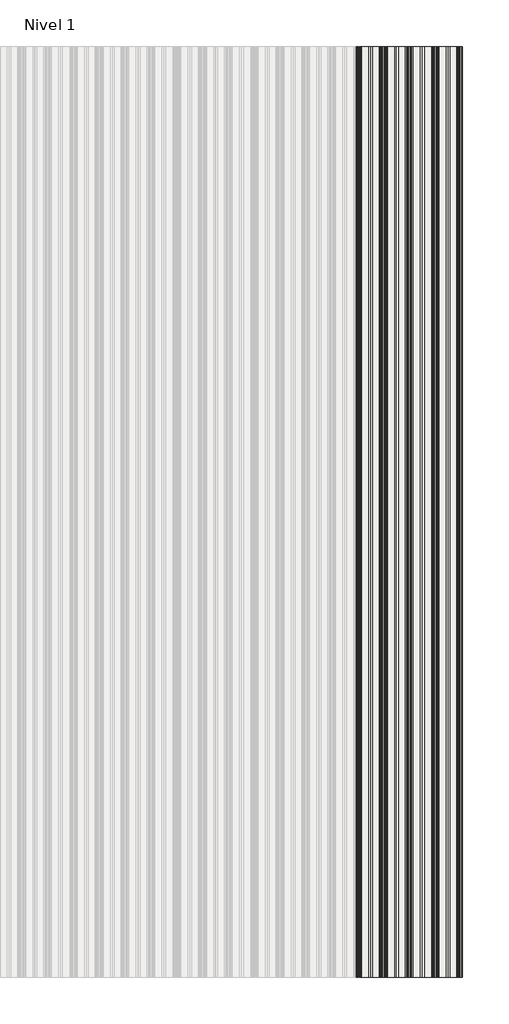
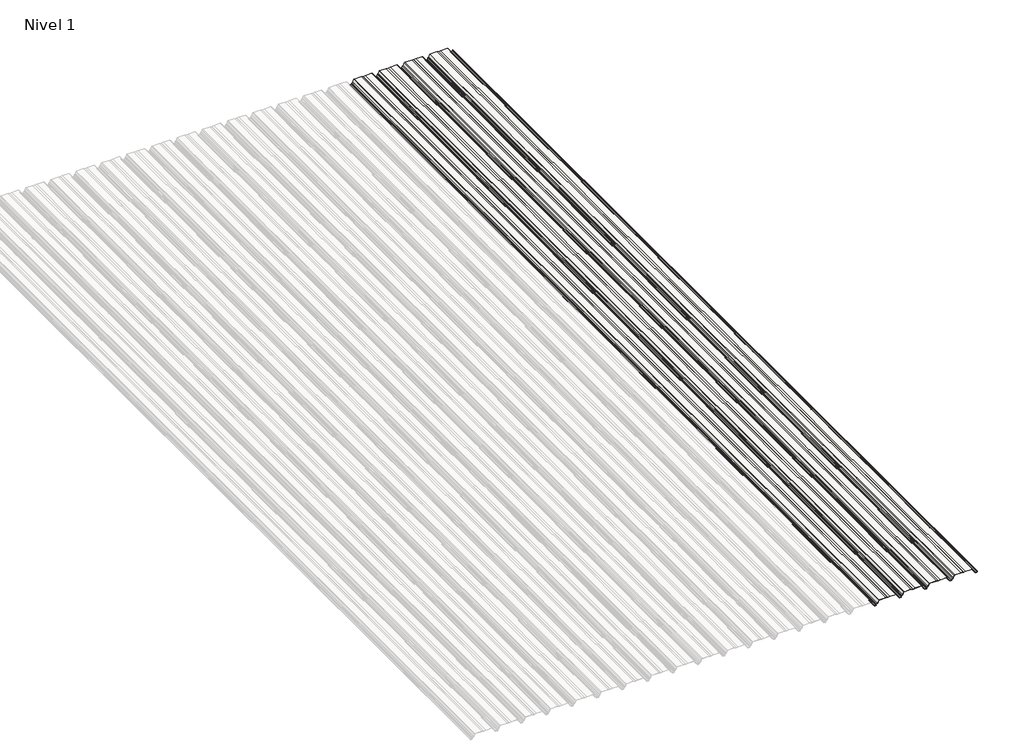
# One storey, part 2 of 4: 2 roofs.
"""IFC4 building model written with IfcOpenShell, lengths in millimetres."""

from ifc_helpers import new_model, si_unit, point, frame, frame_2d, origin, place, context, project, spatial, polyline, circle_curve, trimmed, segment, composite_curve, outline, extrude, element, save

model = new_model("IFC4")

# Units and contexts
model_context = context("Model", 3, world=origin())
ifc_project = project(units=[si_unit("LENGTHUNIT", "METRE", prefix="MILLI")], contexts=[model_context])

# Site, building, storey
site = spatial("IfcSite", under=ifc_project)
building = spatial("IfcBuilding", under=site)
storey = spatial("IfcBuildingStorey", under=building, Name="Nivel 1", Elevation=0.0)

# Roofs
placement = place(None, origin())
element("IfcRoof", 1, ObjectType="Panel_TZ-47 DECK : TZ-47 DECK_0.7mm", at=placement, inside=storey, context=model_context, shape_type="SweptSolid", body=[
    extrude(outline(composite_curve([segment(trimmed(circle_curve(frame_2d((44.0, -5199.9741819)), 2.5), [point((46.5, -5199.9741819))], [point((44.9953639, -5197.6808763))], True, "CARTESIAN"), True, "CONTINUOUS"), segment(polyline([(44.9953639, -5197.6808763), (19.8835868, -5186.781606)]), True, "CONTINUOUS"), segment(trimmed(circle_curve(frame_2d((21.0780235, -5184.0296393)), 3.0), [point((19.8835868, -5186.781606))], [point((18.397439, -5185.3766607))], False, "CARTESIAN"), True, "CONTINUOUS"), segment(polyline([(18.397439, -5185.3766607), (14.779315, -5178.1765618)]), True, "CONTINUOUS"), segment(trimmed(circle_curve(frame_2d((12.9922586, -5179.074576)), 2.0), [point((14.779315, -5178.1765618))], [point((13.6209063, -5177.1759444))], True, "CARTESIAN"), True, "CONTINUOUS"), segment(polyline([(13.6209063, -5177.1759444), (2.3998665, -5173.4605945)]), True, "CONTINUOUS"), segment(trimmed(circle_curve(frame_2d((3.5, -5170.1379891)), 3.5), [point((2.3998665, -5173.4605945))], [point((0.0, -5170.1379891))], False, "CARTESIAN"), True, "CONTINUOUS"), segment(polyline([(0.0, -5170.1379891), (0.0, -5155.193981)]), True, "CONTINUOUS"), segment(trimmed(circle_curve(frame_2d((3.5, -5155.193981)), 3.5), [point((0.0, -5155.193981))], [point((2.3998665, -5151.8713757))], False, "CARTESIAN"), True, "CONTINUOUS"), segment(polyline([(2.3998665, -5151.8713757), (7.5945265, -5150.1513943)]), True, "CONTINUOUS"), segment(trimmed(circle_curve(frame_2d((8.2231742, -5152.0500259)), 2.0), [point((7.5945265, -5150.1513943))], [point((9.1194865, -5150.2621153))], False, "CARTESIAN"), True, "CONTINUOUS"), segment(trimmed(circle_curve(frame_2d((9.5655913, -5149.359869)), 1.0065078), [point((9.1194865, -5150.2621153))], [point((9.8819608, -5150.3153628))], True, "CARTESIAN"), True, "CONTINUOUS"), segment(polyline([(9.8819608, -5150.3153628), (13.4343573, -5149.1391441), (13.6858163, -5149.8985968), (10.1334198, -5151.0748154)]), True, "CONTINUOUS"), segment(trimmed(circle_curve(frame_2d((9.5655913, -5149.359869)), 1.8065078), [point((10.1334198, -5151.0748154))], [point((8.7624057, -5150.9780047))], False, "CARTESIAN"), True, "CONTINUOUS"), segment(trimmed(circle_curve(frame_2d((8.2231742, -5152.0500259)), 1.2), [point((8.7624057, -5150.9780047))], [point((7.8459856, -5150.9108469))], True, "CARTESIAN"), True, "CONTINUOUS"), segment(polyline([(7.8459856, -5150.9108469), (2.6513256, -5152.6308283)]), True, "CONTINUOUS"), segment(trimmed(circle_curve(frame_2d((3.5, -5155.193981)), 2.7), [point((2.6513256, -5152.6308283))], [point((0.8, -5155.193981))], True, "CARTESIAN"), True, "CONTINUOUS"), segment(polyline([(0.8, -5155.193981), (0.8, -5170.1379891)]), True, "CONTINUOUS"), segment(trimmed(circle_curve(frame_2d((3.5, -5170.1379891)), 2.7), [point((0.8, -5170.1379891))], [point((2.6513256, -5172.7011418))], True, "CARTESIAN"), True, "CONTINUOUS"), segment(polyline([(2.6513256, -5172.7011418), (13.8723654, -5176.4164917)]), True, "CONTINUOUS"), segment(trimmed(circle_curve(frame_2d((12.9922586, -5179.074576)), 2.8), [point((13.8723654, -5176.4164917))], [point((15.4941375, -5177.8173561))], False, "CARTESIAN"), True, "CONTINUOUS"), segment(polyline([(15.4941375, -5177.8173561), (19.1122615, -5185.017455)]), True, "CONTINUOUS"), segment(trimmed(circle_curve(frame_2d((21.0780235, -5184.0296393)), 2.2), [point((19.1122615, -5185.017455))], [point((20.2021032, -5186.0477482))], True, "CARTESIAN"), True, "CONTINUOUS"), segment(polyline([(20.2021032, -5186.0477482), (45.3138804, -5196.9470185)]), True, "CONTINUOUS"), segment(trimmed(circle_curve(frame_2d((44.0, -5199.9741819)), 3.3), [point((45.3138804, -5196.9470185))], [point((47.3, -5199.9741819))], False, "CARTESIAN"), True, "CONTINUOUS"), segment(polyline([(47.3, -5199.9741819), (47.3, -5267.6956909), (43.3922323, -5287.2345296)]), True, "CONTINUOUS"), segment(trimmed(circle_curve(frame_2d((45.5495098, -5287.6659851)), 2.2), [point((43.3922323, -5287.2345296))], [point((43.3922323, -5288.0974406))], True, "CARTESIAN"), True, "CONTINUOUS"), segment(polyline([(43.3922323, -5288.0974406), (47.3, -5307.6362792), (47.3, -5375.3577882)]), True, "CONTINUOUS"), segment(trimmed(circle_curve(frame_2d((44.0, -5375.3577882)), 3.3), [point((47.3, -5375.3577882))], [point((45.3138804, -5378.3849516))], False, "CARTESIAN"), True, "CONTINUOUS"), segment(polyline([(45.3138804, -5378.3849516), (20.2021032, -5389.2842219)]), True, "CONTINUOUS"), segment(trimmed(circle_curve(frame_2d((21.0780235, -5391.3023308)), 2.2), [point((20.2021032, -5389.2842219))], [point((19.1122615, -5390.3145151))], True, "CARTESIAN"), True, "CONTINUOUS"), segment(polyline([(19.1122615, -5390.3145151), (15.4941375, -5397.5146141)]), True, "CONTINUOUS"), segment(trimmed(circle_curve(frame_2d((12.9922586, -5396.2573941)), 2.8), [point((15.4941375, -5397.5146141))], [point((13.8723654, -5398.9154784))], False, "CARTESIAN"), True, "CONTINUOUS"), segment(polyline([(13.8723654, -5398.9154784), (2.6513256, -5402.6308283)]), True, "CONTINUOUS"), segment(trimmed(circle_curve(frame_2d((3.5, -5405.193981)), 2.7), [point((2.6513256, -5402.6308283))], [point((0.8, -5405.193981))], True, "CARTESIAN"), True, "CONTINUOUS"), segment(polyline([(0.8, -5405.193981), (0.8, -5420.1379891)]), True, "CONTINUOUS"), segment(trimmed(circle_curve(frame_2d((3.5, -5420.1379891)), 2.7), [point((0.8, -5420.1379891))], [point((2.6513256, -5422.7011418))], True, "CARTESIAN"), True, "CONTINUOUS"), segment(polyline([(2.6513256, -5422.7011418), (13.8723654, -5426.4164917)]), True, "CONTINUOUS"), segment(trimmed(circle_curve(frame_2d((12.9922586, -5429.074576)), 2.8), [point((13.8723654, -5426.4164917))], [point((15.4941375, -5427.8173561))], False, "CARTESIAN"), True, "CONTINUOUS"), segment(polyline([(15.4941375, -5427.8173561), (19.1122615, -5435.017455)]), True, "CONTINUOUS"), segment(trimmed(circle_curve(frame_2d((21.0780235, -5434.0296393)), 2.2), [point((19.1122615, -5435.017455))], [point((20.2021032, -5436.0477482))], True, "CARTESIAN"), True, "CONTINUOUS"), segment(polyline([(20.2021032, -5436.0477482), (45.3138804, -5446.9470185)]), True, "CONTINUOUS"), segment(trimmed(circle_curve(frame_2d((44.0, -5449.9741819)), 3.3), [point((45.3138804, -5446.9470185))], [point((47.3, -5449.9741819))], False, "CARTESIAN"), True, "CONTINUOUS"), segment(polyline([(47.3, -5449.9741819), (47.3, -5517.6956909), (43.3922323, -5537.2345296)]), True, "CONTINUOUS"), segment(trimmed(circle_curve(frame_2d((45.5495098, -5537.6659851)), 2.2), [point((43.3922323, -5537.2345296))], [point((43.3922323, -5538.0974406))], True, "CARTESIAN"), True, "CONTINUOUS"), segment(polyline([(43.3922323, -5538.0974406), (47.3, -5557.6362792), (47.3, -5625.3577882)]), True, "CONTINUOUS"), segment(trimmed(circle_curve(frame_2d((44.0, -5625.3577882)), 3.3), [point((47.3, -5625.3577882))], [point((45.3138804, -5628.3849516))], False, "CARTESIAN"), True, "CONTINUOUS"), segment(polyline([(45.3138804, -5628.3849516), (20.2021032, -5639.2842219)]), True, "CONTINUOUS"), segment(trimmed(circle_curve(frame_2d((21.0780235, -5641.3023308)), 2.2), [point((20.2021032, -5639.2842219))], [point((19.1122615, -5640.3145151))], True, "CARTESIAN"), True, "CONTINUOUS"), segment(polyline([(19.1122615, -5640.3145151), (15.4941375, -5647.5146141)]), True, "CONTINUOUS"), segment(trimmed(circle_curve(frame_2d((12.9922586, -5646.2573941)), 2.8), [point((15.4941375, -5647.5146141))], [point((13.8723654, -5648.9154784))], False, "CARTESIAN"), True, "CONTINUOUS"), segment(polyline([(13.8723654, -5648.9154784), (2.6513256, -5652.6308283)]), True, "CONTINUOUS"), segment(trimmed(circle_curve(frame_2d((3.5, -5655.193981)), 2.7), [point((2.6513256, -5652.6308283))], [point((0.8, -5655.193981))], True, "CARTESIAN"), True, "CONTINUOUS"), segment(polyline([(0.8, -5655.193981), (0.8, -5670.1379891)]), True, "CONTINUOUS"), segment(trimmed(circle_curve(frame_2d((3.5, -5670.1379891)), 2.7), [point((0.8, -5670.1379891))], [point((2.6513256, -5672.7011418))], True, "CARTESIAN"), True, "CONTINUOUS"), segment(polyline([(2.6513256, -5672.7011418), (13.8723654, -5676.4164917)]), True, "CONTINUOUS"), segment(trimmed(circle_curve(frame_2d((12.9922586, -5679.074576)), 2.8), [point((13.8723654, -5676.4164917))], [point((15.4941375, -5677.8173561))], False, "CARTESIAN"), True, "CONTINUOUS"), segment(polyline([(15.4941375, -5677.8173561), (19.1122615, -5685.017455)]), True, "CONTINUOUS"), segment(trimmed(circle_curve(frame_2d((21.0780235, -5684.0296393)), 2.2), [point((19.1122615, -5685.017455))], [point((20.2021032, -5686.0477482))], True, "CARTESIAN"), True, "CONTINUOUS"), segment(polyline([(20.2021032, -5686.0477482), (45.3138804, -5696.9470185)]), True, "CONTINUOUS"), segment(trimmed(circle_curve(frame_2d((44.0, -5699.9741819)), 3.3), [point((45.3138804, -5696.9470185))], [point((47.3, -5699.9741819))], False, "CARTESIAN"), True, "CONTINUOUS"), segment(polyline([(47.3, -5699.9741819), (47.3, -5767.6956909), (43.3922323, -5787.2345296)]), True, "CONTINUOUS"), segment(trimmed(circle_curve(frame_2d((45.5495098, -5787.6659851)), 2.2), [point((43.3922323, -5787.2345296))], [point((43.3922323, -5788.0974406))], True, "CARTESIAN"), True, "CONTINUOUS"), segment(polyline([(43.3922323, -5788.0974406), (47.3, -5807.6362792), (47.3, -5875.3577882)]), True, "CONTINUOUS"), segment(trimmed(circle_curve(frame_2d((44.0, -5875.3577882)), 3.3), [point((47.3, -5875.3577882))], [point((45.3138804, -5878.3849516))], False, "CARTESIAN"), True, "CONTINUOUS"), segment(polyline([(45.3138804, -5878.3849516), (20.2021032, -5889.2842219)]), True, "CONTINUOUS"), segment(trimmed(circle_curve(frame_2d((21.0780235, -5891.3023308)), 2.2), [point((20.2021032, -5889.2842219))], [point((19.1122615, -5890.3145151))], True, "CARTESIAN"), True, "CONTINUOUS"), segment(polyline([(19.1122615, -5890.3145151), (15.4941375, -5897.5146141)]), True, "CONTINUOUS"), segment(trimmed(circle_curve(frame_2d((12.9922586, -5896.2573941)), 2.8), [point((15.4941375, -5897.5146141))], [point((13.8723654, -5898.9154784))], False, "CARTESIAN"), True, "CONTINUOUS"), segment(polyline([(13.8723654, -5898.9154784), (2.6513256, -5902.6308283)]), True, "CONTINUOUS"), segment(trimmed(circle_curve(frame_2d((3.5, -5905.193981)), 2.7), [point((2.6513256, -5902.6308283))], [point((0.8, -5905.193981))], True, "CARTESIAN"), True, "CONTINUOUS"), segment(polyline([(0.8, -5905.193981), (0.8, -5920.1379891)]), True, "CONTINUOUS"), segment(trimmed(circle_curve(frame_2d((3.5, -5920.1379891)), 2.7), [point((0.8, -5920.1379891))], [point((2.6513256, -5922.7011418))], True, "CARTESIAN"), True, "CONTINUOUS"), segment(polyline([(2.6513256, -5922.7011418), (13.8723654, -5926.4164917)]), True, "CONTINUOUS"), segment(trimmed(circle_curve(frame_2d((12.9922586, -5929.074576)), 2.8), [point((13.8723654, -5926.4164917))], [point((15.4941375, -5927.8173561))], False, "CARTESIAN"), True, "CONTINUOUS"), segment(polyline([(15.4941375, -5927.8173561), (19.1122615, -5935.017455)]), True, "CONTINUOUS"), segment(trimmed(circle_curve(frame_2d((21.0780235, -5934.0296393)), 2.2), [point((19.1122615, -5935.017455))], [point((20.2021032, -5936.0477482))], True, "CARTESIAN"), True, "CONTINUOUS"), segment(polyline([(20.2021032, -5936.0477482), (45.3138804, -5946.9470185)]), True, "CONTINUOUS"), segment(trimmed(circle_curve(frame_2d((44.0, -5949.9741819)), 3.3), [point((45.3138804, -5946.9470185))], [point((47.3, -5949.9741819))], False, "CARTESIAN"), True, "CONTINUOUS"), segment(polyline([(47.3, -5949.9741819), (47.3, -6017.6956909), (43.3922323, -6037.2345296)]), True, "CONTINUOUS"), segment(trimmed(circle_curve(frame_2d((45.5495098, -6037.6659851)), 2.2), [point((43.3922323, -6037.2345296))], [point((43.3922323, -6038.0974406))], True, "CARTESIAN"), True, "CONTINUOUS"), segment(polyline([(43.3922323, -6038.0974406), (47.3, -6057.6362792), (47.3, -6125.3577882)]), True, "CONTINUOUS"), segment(trimmed(circle_curve(frame_2d((44.0, -6125.3577882)), 3.3), [point((47.3, -6125.3577882))], [point((45.3138804, -6128.3849516))], False, "CARTESIAN"), True, "CONTINUOUS"), segment(polyline([(45.3138804, -6128.3849516), (20.2021032, -6139.2842219)]), True, "CONTINUOUS"), segment(trimmed(circle_curve(frame_2d((21.0780235, -6141.3023308)), 2.2), [point((20.2021032, -6139.2842219))], [point((19.1122615, -6140.3145151))], True, "CARTESIAN"), True, "CONTINUOUS"), segment(polyline([(19.1122615, -6140.3145151), (14.5899257, -6149.3140038)]), True, "CONTINUOUS"), segment(trimmed(circle_curve(frame_2d((12.0880468, -6148.0567838)), 2.8), [point((14.5899257, -6149.3140038))], [point((12.9681535, -6150.7148681))], False, "CARTESIAN"), True, "CONTINUOUS"), segment(polyline([(12.9681535, -6150.7148681), (4.1513256, -6153.6341698)]), True, "CONTINUOUS"), segment(trimmed(circle_curve(frame_2d((5.0, -6156.1973225)), 2.7), [point((4.1513256, -6153.6341698))], [point((2.3, -6156.1973225))], True, "CARTESIAN"), True, "CONTINUOUS"), segment(polyline([(2.3, -6156.1973225), (2.3, -6168.9091576)]), True, "CONTINUOUS"), segment(trimmed(circle_curve(frame_2d((4.0, -6168.9091576)), 1.7), [point((2.3, -6168.9091576))], [point((3.4656495, -6170.5229945))], True, "CARTESIAN"), True, "CONTINUOUS"), segment(polyline([(3.4656495, -6170.5229945), (5.3642811, -6171.1516422), (5.112822, -6171.9110948), (3.2141904, -6171.2824471)]), True, "CONTINUOUS"), segment(trimmed(circle_curve(frame_2d((4.0, -6168.9091576)), 2.5), [point((3.2141904, -6171.2824471))], [point((1.5, -6168.9091576))], False, "CARTESIAN"), True, "CONTINUOUS"), segment(polyline([(1.5, -6168.9091576), (1.5, -6156.1973225)]), True, "CONTINUOUS"), segment(trimmed(circle_curve(frame_2d((5.0, -6156.1973225)), 3.5), [point((1.5, -6156.1973225))], [point((3.8998665, -6152.8747171))], False, "CARTESIAN"), True, "CONTINUOUS"), segment(polyline([(3.8998665, -6152.8747171), (12.7166945, -6149.9554154)]), True, "CONTINUOUS"), segment(trimmed(circle_curve(frame_2d((12.0880468, -6148.0567838)), 2.0), [point((12.7166945, -6149.9554154))], [point((13.8751031, -6148.9547981))], True, "CARTESIAN"), True, "CONTINUOUS"), segment(polyline([(13.8751031, -6148.9547981), (18.397439, -6139.9553094)]), True, "CONTINUOUS"), segment(trimmed(circle_curve(frame_2d((21.0780235, -6141.3023308)), 3.0), [point((18.397439, -6139.9553094))], [point((19.8835868, -6138.5503641))], False, "CARTESIAN"), True, "CONTINUOUS"), segment(polyline([(19.8835868, -6138.5503641), (44.9953639, -6127.6510938)]), True, "CONTINUOUS"), segment(trimmed(circle_curve(frame_2d((44.0, -6125.3577882)), 2.5), [point((44.9953639, -6127.6510938))], [point((46.5, -6125.3577882))], True, "CARTESIAN"), True, "CONTINUOUS"), segment(polyline([(46.5, -6125.3577882), (46.5, -6057.7154948), (42.6077677, -6038.2543335)]), True, "CONTINUOUS"), segment(trimmed(circle_curve(frame_2d((45.5495098, -6037.6659851)), 3.0), [point((42.6077677, -6038.2543335))], [point((42.6077677, -6037.0776367))], False, "CARTESIAN"), True, "CONTINUOUS"), segment(polyline([(42.6077677, -6037.0776367), (46.5, -6017.6164753), (46.5, -5949.9741819)]), True, "CONTINUOUS"), segment(trimmed(circle_curve(frame_2d((44.0, -5949.9741819)), 2.5), [point((46.5, -5949.9741819))], [point((44.9953639, -5947.6808763))], True, "CARTESIAN"), True, "CONTINUOUS"), segment(polyline([(44.9953639, -5947.6808763), (19.8835868, -5936.781606)]), True, "CONTINUOUS"), segment(trimmed(circle_curve(frame_2d((21.0780235, -5934.0296393)), 3.0), [point((19.8835868, -5936.781606))], [point((18.397439, -5935.3766607))], False, "CARTESIAN"), True, "CONTINUOUS"), segment(polyline([(18.397439, -5935.3766607), (14.779315, -5928.1765618)]), True, "CONTINUOUS"), segment(trimmed(circle_curve(frame_2d((12.9922586, -5929.074576)), 2.0), [point((14.779315, -5928.1765618))], [point((13.6209063, -5927.1759444))], True, "CARTESIAN"), True, "CONTINUOUS"), segment(polyline([(13.6209063, -5927.1759444), (2.3998665, -5923.4605945)]), True, "CONTINUOUS"), segment(trimmed(circle_curve(frame_2d((3.5, -5920.1379891)), 3.5), [point((2.3998665, -5923.4605945))], [point((0.0, -5920.1379891))], False, "CARTESIAN"), True, "CONTINUOUS"), segment(polyline([(0.0, -5920.1379891), (0.0, -5905.193981)]), True, "CONTINUOUS"), segment(trimmed(circle_curve(frame_2d((3.5, -5905.193981)), 3.5), [point((0.0, -5905.193981))], [point((2.3998665, -5901.8713757))], False, "CARTESIAN"), True, "CONTINUOUS"), segment(polyline([(2.3998665, -5901.8713757), (13.6209063, -5898.1560258)]), True, "CONTINUOUS"), segment(trimmed(circle_curve(frame_2d((12.9922586, -5896.2573941)), 2.0), [point((13.6209063, -5898.1560258))], [point((14.779315, -5897.1554084))], True, "CARTESIAN"), True, "CONTINUOUS"), segment(polyline([(14.779315, -5897.1554084), (18.397439, -5889.9553094)]), True, "CONTINUOUS"), segment(trimmed(circle_curve(frame_2d((21.0780235, -5891.3023308)), 3.0), [point((18.397439, -5889.9553094))], [point((19.8835868, -5888.5503641))], False, "CARTESIAN"), True, "CONTINUOUS"), segment(polyline([(19.8835868, -5888.5503641), (44.9953639, -5877.6510938)]), True, "CONTINUOUS"), segment(trimmed(circle_curve(frame_2d((44.0, -5875.3577882)), 2.5), [point((44.9953639, -5877.6510938))], [point((46.5, -5875.3577882))], True, "CARTESIAN"), True, "CONTINUOUS"), segment(polyline([(46.5, -5875.3577882), (46.5, -5807.7154948), (42.6077677, -5788.2543335)]), True, "CONTINUOUS"), segment(trimmed(circle_curve(frame_2d((45.5495098, -5787.6659851)), 3.0), [point((42.6077677, -5788.2543335))], [point((42.6077677, -5787.0776367))], False, "CARTESIAN"), True, "CONTINUOUS"), segment(polyline([(42.6077677, -5787.0776367), (46.5, -5767.6164753), (46.5, -5699.9741819)]), True, "CONTINUOUS"), segment(trimmed(circle_curve(frame_2d((44.0, -5699.9741819)), 2.5), [point((46.5, -5699.9741819))], [point((44.9953639, -5697.6808763))], True, "CARTESIAN"), True, "CONTINUOUS"), segment(polyline([(44.9953639, -5697.6808763), (19.8835868, -5686.781606)]), True, "CONTINUOUS"), segment(trimmed(circle_curve(frame_2d((21.0780235, -5684.0296393)), 3.0), [point((19.8835868, -5686.781606))], [point((18.397439, -5685.3766607))], False, "CARTESIAN"), True, "CONTINUOUS"), segment(polyline([(18.397439, -5685.3766607), (14.779315, -5678.1765618)]), True, "CONTINUOUS"), segment(trimmed(circle_curve(frame_2d((12.9922586, -5679.074576)), 2.0), [point((14.779315, -5678.1765618))], [point((13.6209063, -5677.1759444))], True, "CARTESIAN"), True, "CONTINUOUS"), segment(polyline([(13.6209063, -5677.1759444), (2.3998665, -5673.4605945)]), True, "CONTINUOUS"), segment(trimmed(circle_curve(frame_2d((3.5, -5670.1379891)), 3.5), [point((2.3998665, -5673.4605945))], [point((0.0, -5670.1379891))], False, "CARTESIAN"), True, "CONTINUOUS"), segment(polyline([(0.0, -5670.1379891), (0.0, -5655.193981)]), True, "CONTINUOUS"), segment(trimmed(circle_curve(frame_2d((3.5, -5655.193981)), 3.5), [point((0.0, -5655.193981))], [point((2.3998665, -5651.8713757))], False, "CARTESIAN"), True, "CONTINUOUS"), segment(polyline([(2.3998665, -5651.8713757), (13.6209063, -5648.1560258)]), True, "CONTINUOUS"), segment(trimmed(circle_curve(frame_2d((12.9922586, -5646.2573941)), 2.0), [point((13.6209063, -5648.1560258))], [point((14.779315, -5647.1554084))], True, "CARTESIAN"), True, "CONTINUOUS"), segment(polyline([(14.779315, -5647.1554084), (18.397439, -5639.9553094)]), True, "CONTINUOUS"), segment(trimmed(circle_curve(frame_2d((21.0780235, -5641.3023308)), 3.0), [point((18.397439, -5639.9553094))], [point((19.8835868, -5638.5503641))], False, "CARTESIAN"), True, "CONTINUOUS"), segment(polyline([(19.8835868, -5638.5503641), (44.9953639, -5627.6510938)]), True, "CONTINUOUS"), segment(trimmed(circle_curve(frame_2d((44.0, -5625.3577882)), 2.5), [point((44.9953639, -5627.6510938))], [point((46.5, -5625.3577882))], True, "CARTESIAN"), True, "CONTINUOUS"), segment(polyline([(46.5, -5625.3577882), (46.5, -5557.7154948), (42.6077677, -5538.2543335)]), True, "CONTINUOUS"), segment(trimmed(circle_curve(frame_2d((45.5495098, -5537.6659851)), 3.0), [point((42.6077677, -5538.2543335))], [point((42.6077677, -5537.0776367))], False, "CARTESIAN"), True, "CONTINUOUS"), segment(polyline([(42.6077677, -5537.0776367), (46.5, -5517.6164753), (46.5, -5449.9741819)]), True, "CONTINUOUS"), segment(trimmed(circle_curve(frame_2d((44.0, -5449.9741819)), 2.5), [point((46.5, -5449.9741819))], [point((44.9953639, -5447.6808763))], True, "CARTESIAN"), True, "CONTINUOUS"), segment(polyline([(44.9953639, -5447.6808763), (19.8835868, -5436.781606)]), True, "CONTINUOUS"), segment(trimmed(circle_curve(frame_2d((21.0780235, -5434.0296393)), 3.0), [point((19.8835868, -5436.781606))], [point((18.397439, -5435.3766607))], False, "CARTESIAN"), True, "CONTINUOUS"), segment(polyline([(18.397439, -5435.3766607), (14.779315, -5428.1765618)]), True, "CONTINUOUS"), segment(trimmed(circle_curve(frame_2d((12.9922586, -5429.074576)), 2.0), [point((14.779315, -5428.1765618))], [point((13.6209063, -5427.1759444))], True, "CARTESIAN"), True, "CONTINUOUS"), segment(polyline([(13.6209063, -5427.1759444), (2.3998665, -5423.4605945)]), True, "CONTINUOUS"), segment(trimmed(circle_curve(frame_2d((3.5, -5420.1379891)), 3.5), [point((2.3998665, -5423.4605945))], [point((0.0, -5420.1379891))], False, "CARTESIAN"), True, "CONTINUOUS"), segment(polyline([(0.0, -5420.1379891), (0.0, -5405.193981)]), True, "CONTINUOUS"), segment(trimmed(circle_curve(frame_2d((3.5, -5405.193981)), 3.5), [point((0.0, -5405.193981))], [point((2.3998665, -5401.8713757))], False, "CARTESIAN"), True, "CONTINUOUS"), segment(polyline([(2.3998665, -5401.8713757), (13.6209063, -5398.1560258)]), True, "CONTINUOUS"), segment(trimmed(circle_curve(frame_2d((12.9922586, -5396.2573941)), 2.0), [point((13.6209063, -5398.1560258))], [point((14.779315, -5397.1554084))], True, "CARTESIAN"), True, "CONTINUOUS"), segment(polyline([(14.779315, -5397.1554084), (18.397439, -5389.9553094)]), True, "CONTINUOUS"), segment(trimmed(circle_curve(frame_2d((21.0780235, -5391.3023308)), 3.0), [point((18.397439, -5389.9553094))], [point((19.8835868, -5388.5503641))], False, "CARTESIAN"), True, "CONTINUOUS"), segment(polyline([(19.8835868, -5388.5503641), (44.9953639, -5377.6510938)]), True, "CONTINUOUS"), segment(trimmed(circle_curve(frame_2d((44.0, -5375.3577882)), 2.5), [point((44.9953639, -5377.6510938))], [point((46.5, -5375.3577882))], True, "CARTESIAN"), True, "CONTINUOUS"), segment(polyline([(46.5, -5375.3577882), (46.5, -5307.7154948), (42.6077677, -5288.2543335)]), True, "CONTINUOUS"), segment(trimmed(circle_curve(frame_2d((45.5495098, -5287.6659851)), 3.0), [point((42.6077677, -5288.2543335))], [point((42.6077677, -5287.0776367))], False, "CARTESIAN"), True, "CONTINUOUS"), segment(polyline([(42.6077677, -5287.0776367), (46.5, -5267.6164753), (46.5, -5199.9741819)]), True, "CONTINUOUS")], self_intersect=False)), frame((0.0, -3212.7855956, 0.0), z_axis=(0.0, 1.0, 0.0), x_axis=(0.0, 0.0, 1.0)), (0.0, 0.0, 1.0), 9000.0),
])
element("IfcRoof", 2, ObjectType="Panel_TZ-47 DECK : TZ-47 DECK_0.8mm", at=placement, inside=storey, context=model_context, shape_type="SweptSolid", body=[
    extrude(outline(composite_curve([segment(trimmed(circle_curve(frame_2d((44.0, -4199.974182)), 2.5), [point((46.5, -4199.974182))], [point((44.9953639, -4197.6808764))], True, "CARTESIAN"), True, "CONTINUOUS"), segment(polyline([(44.9953639, -4197.6808764), (19.8835868, -4186.7816062)]), True, "CONTINUOUS"), segment(trimmed(circle_curve(frame_2d((21.0780235, -4184.0296395)), 3.0), [point((19.8835868, -4186.7816062))], [point((18.397439, -4185.3766608))], False, "CARTESIAN"), True, "CONTINUOUS"), segment(polyline([(18.397439, -4185.3766608), (14.779315, -4178.1765619)]), True, "CONTINUOUS"), segment(trimmed(circle_curve(frame_2d((12.9922586, -4179.0745762)), 2.0), [point((14.779315, -4178.1765619))], [point((13.6209063, -4177.1759445))], True, "CARTESIAN"), True, "CONTINUOUS"), segment(polyline([(13.6209063, -4177.1759445), (2.3998665, -4173.4605946)]), True, "CONTINUOUS"), segment(trimmed(circle_curve(frame_2d((3.5, -4170.1379893)), 3.5), [point((2.3998665, -4173.4605946))], [point((0.0, -4170.1379893))], False, "CARTESIAN"), True, "CONTINUOUS"), segment(polyline([(0.0, -4170.1379893), (0.0, -4155.1939812)]), True, "CONTINUOUS"), segment(trimmed(circle_curve(frame_2d((3.5, -4155.1939812)), 3.5), [point((0.0, -4155.1939812))], [point((2.3998665, -4151.8713758))], False, "CARTESIAN"), True, "CONTINUOUS"), segment(polyline([(2.3998665, -4151.8713758), (7.5945265, -4150.1513944)]), True, "CONTINUOUS"), segment(trimmed(circle_curve(frame_2d((8.2231742, -4152.0500261)), 2.0), [point((7.5945265, -4150.1513944))], [point((9.1194865, -4150.2621155))], False, "CARTESIAN"), True, "CONTINUOUS"), segment(trimmed(circle_curve(frame_2d((9.5655913, -4149.3598691)), 1.0065078), [point((9.1194865, -4150.2621155))], [point((9.8819608, -4150.3153629))], True, "CARTESIAN"), True, "CONTINUOUS"), segment(polyline([(9.8819608, -4150.3153629), (13.4343573, -4149.1391443), (13.6858163, -4149.8985969), (10.1334198, -4151.0748156)]), True, "CONTINUOUS"), segment(trimmed(circle_curve(frame_2d((9.5655913, -4149.3598691)), 1.8065078), [point((10.1334198, -4151.0748156))], [point((8.7624057, -4150.9780049))], False, "CARTESIAN"), True, "CONTINUOUS"), segment(trimmed(circle_curve(frame_2d((8.2231742, -4152.0500261)), 1.2), [point((8.7624057, -4150.9780049))], [point((7.8459856, -4150.9108471))], True, "CARTESIAN"), True, "CONTINUOUS"), segment(polyline([(7.8459856, -4150.9108471), (2.6513256, -4152.6308285)]), True, "CONTINUOUS"), segment(trimmed(circle_curve(frame_2d((3.5, -4155.1939812)), 2.7), [point((2.6513256, -4152.6308285))], [point((0.8, -4155.1939812))], True, "CARTESIAN"), True, "CONTINUOUS"), segment(polyline([(0.8, -4155.1939812), (0.8, -4170.1379893)]), True, "CONTINUOUS"), segment(trimmed(circle_curve(frame_2d((3.5, -4170.1379893)), 2.7), [point((0.8, -4170.1379893))], [point((2.6513256, -4172.701142))], True, "CARTESIAN"), True, "CONTINUOUS"), segment(polyline([(2.6513256, -4172.701142), (13.8723654, -4176.4164919)]), True, "CONTINUOUS"), segment(trimmed(circle_curve(frame_2d((12.9922586, -4179.0745762)), 2.8), [point((13.8723654, -4176.4164919))], [point((15.4941375, -4177.8173562))], False, "CARTESIAN"), True, "CONTINUOUS"), segment(polyline([(15.4941375, -4177.8173562), (19.1122615, -4185.0174551)]), True, "CONTINUOUS"), segment(trimmed(circle_curve(frame_2d((21.0780235, -4184.0296395)), 2.2), [point((19.1122615, -4185.0174551))], [point((20.2021032, -4186.0477484))], True, "CARTESIAN"), True, "CONTINUOUS"), segment(polyline([(20.2021032, -4186.0477484), (45.3138804, -4196.9470186)]), True, "CONTINUOUS"), segment(trimmed(circle_curve(frame_2d((44.0, -4199.974182)), 3.3), [point((45.3138804, -4196.9470186))], [point((47.3, -4199.974182))], False, "CARTESIAN"), True, "CONTINUOUS"), segment(polyline([(47.3, -4199.974182), (47.3, -4267.6956911), (43.3922323, -4287.2345297)]), True, "CONTINUOUS"), segment(trimmed(circle_curve(frame_2d((45.5495098, -4287.6659852)), 2.2), [point((43.3922323, -4287.2345297))], [point((43.3922323, -4288.0974407))], True, "CARTESIAN"), True, "CONTINUOUS"), segment(polyline([(43.3922323, -4288.0974407), (47.3, -4307.6362794), (47.3, -4375.3577884)]), True, "CONTINUOUS"), segment(trimmed(circle_curve(frame_2d((44.0, -4375.3577884)), 3.3), [point((47.3, -4375.3577884))], [point((45.3138804, -4378.3849518))], False, "CARTESIAN"), True, "CONTINUOUS"), segment(polyline([(45.3138804, -4378.3849518), (20.2021032, -4389.284222)]), True, "CONTINUOUS"), segment(trimmed(circle_curve(frame_2d((21.0780235, -4391.302331)), 2.2), [point((20.2021032, -4389.284222))], [point((19.1122615, -4390.3145153))], True, "CARTESIAN"), True, "CONTINUOUS"), segment(polyline([(19.1122615, -4390.3145153), (15.4941375, -4397.5146142)]), True, "CONTINUOUS"), segment(trimmed(circle_curve(frame_2d((12.9922586, -4396.2573943)), 2.8), [point((15.4941375, -4397.5146142))], [point((13.8723654, -4398.9154786))], False, "CARTESIAN"), True, "CONTINUOUS"), segment(polyline([(13.8723654, -4398.9154786), (2.6513256, -4402.6308285)]), True, "CONTINUOUS"), segment(trimmed(circle_curve(frame_2d((3.5, -4405.1939812)), 2.7), [point((2.6513256, -4402.6308285))], [point((0.8, -4405.1939812))], True, "CARTESIAN"), True, "CONTINUOUS"), segment(polyline([(0.8, -4405.1939812), (0.8, -4420.1379893)]), True, "CONTINUOUS"), segment(trimmed(circle_curve(frame_2d((3.5, -4420.1379893)), 2.7), [point((0.8, -4420.1379893))], [point((2.6513256, -4422.701142))], True, "CARTESIAN"), True, "CONTINUOUS"), segment(polyline([(2.6513256, -4422.701142), (13.8723654, -4426.4164919)]), True, "CONTINUOUS"), segment(trimmed(circle_curve(frame_2d((12.9922586, -4429.0745762)), 2.8), [point((13.8723654, -4426.4164919))], [point((15.4941375, -4427.8173562))], False, "CARTESIAN"), True, "CONTINUOUS"), segment(polyline([(15.4941375, -4427.8173562), (19.1122615, -4435.0174551)]), True, "CONTINUOUS"), segment(trimmed(circle_curve(frame_2d((21.0780235, -4434.0296395)), 2.2), [point((19.1122615, -4435.0174551))], [point((20.2021032, -4436.0477484))], True, "CARTESIAN"), True, "CONTINUOUS"), segment(polyline([(20.2021032, -4436.0477484), (45.3138804, -4446.9470186)]), True, "CONTINUOUS"), segment(trimmed(circle_curve(frame_2d((44.0, -4449.974182)), 3.3), [point((45.3138804, -4446.9470186))], [point((47.3, -4449.974182))], False, "CARTESIAN"), True, "CONTINUOUS"), segment(polyline([(47.3, -4449.974182), (47.3, -4517.6956911), (43.3922323, -4537.2345297)]), True, "CONTINUOUS"), segment(trimmed(circle_curve(frame_2d((45.5495098, -4537.6659852)), 2.2), [point((43.3922323, -4537.2345297))], [point((43.3922323, -4538.0974407))], True, "CARTESIAN"), True, "CONTINUOUS"), segment(polyline([(43.3922323, -4538.0974407), (47.3, -4557.6362794), (47.3, -4625.3577884)]), True, "CONTINUOUS"), segment(trimmed(circle_curve(frame_2d((44.0, -4625.3577884)), 3.3), [point((47.3, -4625.3577884))], [point((45.3138804, -4628.3849518))], False, "CARTESIAN"), True, "CONTINUOUS"), segment(polyline([(45.3138804, -4628.3849518), (20.2021032, -4639.284222)]), True, "CONTINUOUS"), segment(trimmed(circle_curve(frame_2d((21.0780235, -4641.302331)), 2.2), [point((20.2021032, -4639.284222))], [point((19.1122615, -4640.3145153))], True, "CARTESIAN"), True, "CONTINUOUS"), segment(polyline([(19.1122615, -4640.3145153), (15.4941375, -4647.5146142)]), True, "CONTINUOUS"), segment(trimmed(circle_curve(frame_2d((12.9922586, -4646.2573943)), 2.8), [point((15.4941375, -4647.5146142))], [point((13.8723654, -4648.9154786))], False, "CARTESIAN"), True, "CONTINUOUS"), segment(polyline([(13.8723654, -4648.9154786), (2.6513256, -4652.6308285)]), True, "CONTINUOUS"), segment(trimmed(circle_curve(frame_2d((3.5, -4655.1939812)), 2.7), [point((2.6513256, -4652.6308285))], [point((0.8, -4655.1939812))], True, "CARTESIAN"), True, "CONTINUOUS"), segment(polyline([(0.8, -4655.1939812), (0.8, -4670.1379893)]), True, "CONTINUOUS"), segment(trimmed(circle_curve(frame_2d((3.5, -4670.1379893)), 2.7), [point((0.8, -4670.1379893))], [point((2.6513256, -4672.701142))], True, "CARTESIAN"), True, "CONTINUOUS"), segment(polyline([(2.6513256, -4672.701142), (13.8723654, -4676.4164919)]), True, "CONTINUOUS"), segment(trimmed(circle_curve(frame_2d((12.9922586, -4679.0745762)), 2.8), [point((13.8723654, -4676.4164919))], [point((15.4941375, -4677.8173562))], False, "CARTESIAN"), True, "CONTINUOUS"), segment(polyline([(15.4941375, -4677.8173562), (19.1122615, -4685.0174551)]), True, "CONTINUOUS"), segment(trimmed(circle_curve(frame_2d((21.0780235, -4684.0296395)), 2.2), [point((19.1122615, -4685.0174551))], [point((20.2021032, -4686.0477484))], True, "CARTESIAN"), True, "CONTINUOUS"), segment(polyline([(20.2021032, -4686.0477484), (45.3138804, -4696.9470186)]), True, "CONTINUOUS"), segment(trimmed(circle_curve(frame_2d((44.0, -4699.974182)), 3.3), [point((45.3138804, -4696.9470186))], [point((47.3, -4699.974182))], False, "CARTESIAN"), True, "CONTINUOUS"), segment(polyline([(47.3, -4699.974182), (47.3, -4767.6956911), (43.3922323, -4787.2345297)]), True, "CONTINUOUS"), segment(trimmed(circle_curve(frame_2d((45.5495098, -4787.6659852)), 2.2), [point((43.3922323, -4787.2345297))], [point((43.3922323, -4788.0974407))], True, "CARTESIAN"), True, "CONTINUOUS"), segment(polyline([(43.3922323, -4788.0974407), (47.3, -4807.6362794), (47.3, -4875.3577884)]), True, "CONTINUOUS"), segment(trimmed(circle_curve(frame_2d((44.0, -4875.3577884)), 3.3), [point((47.3, -4875.3577884))], [point((45.3138804, -4878.3849518))], False, "CARTESIAN"), True, "CONTINUOUS"), segment(polyline([(45.3138804, -4878.3849518), (20.2021032, -4889.284222)]), True, "CONTINUOUS"), segment(trimmed(circle_curve(frame_2d((21.0780235, -4891.302331)), 2.2), [point((20.2021032, -4889.284222))], [point((19.1122615, -4890.3145153))], True, "CARTESIAN"), True, "CONTINUOUS"), segment(polyline([(19.1122615, -4890.3145153), (15.4941375, -4897.5146142)]), True, "CONTINUOUS"), segment(trimmed(circle_curve(frame_2d((12.9922586, -4896.2573943)), 2.8), [point((15.4941375, -4897.5146142))], [point((13.8723654, -4898.9154786))], False, "CARTESIAN"), True, "CONTINUOUS"), segment(polyline([(13.8723654, -4898.9154786), (2.6513256, -4902.6308285)]), True, "CONTINUOUS"), segment(trimmed(circle_curve(frame_2d((3.5, -4905.1939812)), 2.7), [point((2.6513256, -4902.6308285))], [point((0.8, -4905.1939812))], True, "CARTESIAN"), True, "CONTINUOUS"), segment(polyline([(0.8, -4905.1939812), (0.8, -4920.1379893)]), True, "CONTINUOUS"), segment(trimmed(circle_curve(frame_2d((3.5, -4920.1379893)), 2.7), [point((0.8, -4920.1379893))], [point((2.6513256, -4922.701142))], True, "CARTESIAN"), True, "CONTINUOUS"), segment(polyline([(2.6513256, -4922.701142), (13.8723654, -4926.4164919)]), True, "CONTINUOUS"), segment(trimmed(circle_curve(frame_2d((12.9922586, -4929.0745762)), 2.8), [point((13.8723654, -4926.4164919))], [point((15.4941375, -4927.8173562))], False, "CARTESIAN"), True, "CONTINUOUS"), segment(polyline([(15.4941375, -4927.8173562), (19.1122615, -4935.0174551)]), True, "CONTINUOUS"), segment(trimmed(circle_curve(frame_2d((21.0780235, -4934.0296395)), 2.2), [point((19.1122615, -4935.0174551))], [point((20.2021032, -4936.0477484))], True, "CARTESIAN"), True, "CONTINUOUS"), segment(polyline([(20.2021032, -4936.0477484), (45.3138804, -4946.9470186)]), True, "CONTINUOUS"), segment(trimmed(circle_curve(frame_2d((44.0, -4949.974182)), 3.3), [point((45.3138804, -4946.9470186))], [point((47.3, -4949.974182))], False, "CARTESIAN"), True, "CONTINUOUS"), segment(polyline([(47.3, -4949.974182), (47.3, -5017.6956911), (43.3922323, -5037.2345297)]), True, "CONTINUOUS"), segment(trimmed(circle_curve(frame_2d((45.5495098, -5037.6659852)), 2.2), [point((43.3922323, -5037.2345297))], [point((43.3922323, -5038.0974407))], True, "CARTESIAN"), True, "CONTINUOUS"), segment(polyline([(43.3922323, -5038.0974407), (47.3, -5057.6362794), (47.3, -5125.3577884)]), True, "CONTINUOUS"), segment(trimmed(circle_curve(frame_2d((44.0, -5125.3577884)), 3.3), [point((47.3, -5125.3577884))], [point((45.3138804, -5128.3849518))], False, "CARTESIAN"), True, "CONTINUOUS"), segment(polyline([(45.3138804, -5128.3849518), (20.2021032, -5139.284222)]), True, "CONTINUOUS"), segment(trimmed(circle_curve(frame_2d((21.0780235, -5141.302331)), 2.2), [point((20.2021032, -5139.284222))], [point((19.1122615, -5140.3145153))], True, "CARTESIAN"), True, "CONTINUOUS"), segment(polyline([(19.1122615, -5140.3145153), (14.5899257, -5149.3140039)]), True, "CONTINUOUS"), segment(trimmed(circle_curve(frame_2d((12.0880468, -5148.056784)), 2.8), [point((14.5899257, -5149.3140039))], [point((12.9681535, -5150.7148682))], False, "CARTESIAN"), True, "CONTINUOUS"), segment(polyline([(12.9681535, -5150.7148682), (4.1513256, -5153.63417)]), True, "CONTINUOUS"), segment(trimmed(circle_curve(frame_2d((5.0, -5156.1973227)), 2.7), [point((4.1513256, -5153.63417))], [point((2.3, -5156.1973227))], True, "CARTESIAN"), True, "CONTINUOUS"), segment(polyline([(2.3, -5156.1973227), (2.3, -5168.9091577)]), True, "CONTINUOUS"), segment(trimmed(circle_curve(frame_2d((4.0, -5168.9091577)), 1.7), [point((2.3, -5168.9091577))], [point((3.4656495, -5170.5229946))], True, "CARTESIAN"), True, "CONTINUOUS"), segment(polyline([(3.4656495, -5170.5229946), (5.3642811, -5171.1516423), (5.112822, -5171.911095), (3.2141904, -5171.2824473)]), True, "CONTINUOUS"), segment(trimmed(circle_curve(frame_2d((4.0, -5168.9091577)), 2.5), [point((3.2141904, -5171.2824473))], [point((1.5, -5168.9091577))], False, "CARTESIAN"), True, "CONTINUOUS"), segment(polyline([(1.5, -5168.9091577), (1.5, -5156.1973227)]), True, "CONTINUOUS"), segment(trimmed(circle_curve(frame_2d((5.0, -5156.1973227)), 3.5), [point((1.5, -5156.1973227))], [point((3.8998665, -5152.8747173))], False, "CARTESIAN"), True, "CONTINUOUS"), segment(polyline([(3.8998665, -5152.8747173), (12.7166945, -5149.9554156)]), True, "CONTINUOUS"), segment(trimmed(circle_curve(frame_2d((12.0880468, -5148.056784)), 2.0), [point((12.7166945, -5149.9554156))], [point((13.8751031, -5148.9547982))], True, "CARTESIAN"), True, "CONTINUOUS"), segment(polyline([(13.8751031, -5148.9547982), (18.397439, -5139.9553096)]), True, "CONTINUOUS"), segment(trimmed(circle_curve(frame_2d((21.0780235, -5141.302331)), 3.0), [point((18.397439, -5139.9553096))], [point((19.8835868, -5138.5503642))], False, "CARTESIAN"), True, "CONTINUOUS"), segment(polyline([(19.8835868, -5138.5503642), (44.9953639, -5127.651094)]), True, "CONTINUOUS"), segment(trimmed(circle_curve(frame_2d((44.0, -5125.3577884)), 2.5), [point((44.9953639, -5127.651094))], [point((46.5, -5125.3577884))], True, "CARTESIAN"), True, "CONTINUOUS"), segment(polyline([(46.5, -5125.3577884), (46.5, -5057.715495), (42.6077677, -5038.2543336)]), True, "CONTINUOUS"), segment(trimmed(circle_curve(frame_2d((45.5495098, -5037.6659852)), 3.0), [point((42.6077677, -5038.2543336))], [point((42.6077677, -5037.0776368))], False, "CARTESIAN"), True, "CONTINUOUS"), segment(polyline([(42.6077677, -5037.0776368), (46.5, -5017.6164755), (46.5, -4949.974182)]), True, "CONTINUOUS"), segment(trimmed(circle_curve(frame_2d((44.0, -4949.974182)), 2.5), [point((46.5, -4949.974182))], [point((44.9953639, -4947.6808764))], True, "CARTESIAN"), True, "CONTINUOUS"), segment(polyline([(44.9953639, -4947.6808764), (19.8835868, -4936.7816062)]), True, "CONTINUOUS"), segment(trimmed(circle_curve(frame_2d((21.0780235, -4934.0296395)), 3.0), [point((19.8835868, -4936.7816062))], [point((18.397439, -4935.3766608))], False, "CARTESIAN"), True, "CONTINUOUS"), segment(polyline([(18.397439, -4935.3766608), (14.779315, -4928.1765619)]), True, "CONTINUOUS"), segment(trimmed(circle_curve(frame_2d((12.9922586, -4929.0745762)), 2.0), [point((14.779315, -4928.1765619))], [point((13.6209063, -4927.1759445))], True, "CARTESIAN"), True, "CONTINUOUS"), segment(polyline([(13.6209063, -4927.1759445), (2.3998665, -4923.4605946)]), True, "CONTINUOUS"), segment(trimmed(circle_curve(frame_2d((3.5, -4920.1379893)), 3.5), [point((2.3998665, -4923.4605946))], [point((0.0, -4920.1379893))], False, "CARTESIAN"), True, "CONTINUOUS"), segment(polyline([(0.0, -4920.1379893), (0.0, -4905.1939812)]), True, "CONTINUOUS"), segment(trimmed(circle_curve(frame_2d((3.5, -4905.1939812)), 3.5), [point((0.0, -4905.1939812))], [point((2.3998665, -4901.8713758))], False, "CARTESIAN"), True, "CONTINUOUS"), segment(polyline([(2.3998665, -4901.8713758), (13.6209063, -4898.1560259)]), True, "CONTINUOUS"), segment(trimmed(circle_curve(frame_2d((12.9922586, -4896.2573943)), 2.0), [point((13.6209063, -4898.1560259))], [point((14.779315, -4897.1554085))], True, "CARTESIAN"), True, "CONTINUOUS"), segment(polyline([(14.779315, -4897.1554085), (18.397439, -4889.9553096)]), True, "CONTINUOUS"), segment(trimmed(circle_curve(frame_2d((21.0780235, -4891.302331)), 3.0), [point((18.397439, -4889.9553096))], [point((19.8835868, -4888.5503642))], False, "CARTESIAN"), True, "CONTINUOUS"), segment(polyline([(19.8835868, -4888.5503642), (44.9953639, -4877.651094)]), True, "CONTINUOUS"), segment(trimmed(circle_curve(frame_2d((44.0, -4875.3577884)), 2.5), [point((44.9953639, -4877.651094))], [point((46.5, -4875.3577884))], True, "CARTESIAN"), True, "CONTINUOUS"), segment(polyline([(46.5, -4875.3577884), (46.5, -4807.715495), (42.6077677, -4788.2543336)]), True, "CONTINUOUS"), segment(trimmed(circle_curve(frame_2d((45.5495098, -4787.6659852)), 3.0), [point((42.6077677, -4788.2543336))], [point((42.6077677, -4787.0776368))], False, "CARTESIAN"), True, "CONTINUOUS"), segment(polyline([(42.6077677, -4787.0776368), (46.5, -4767.6164755), (46.5, -4699.974182)]), True, "CONTINUOUS"), segment(trimmed(circle_curve(frame_2d((44.0, -4699.974182)), 2.5), [point((46.5, -4699.974182))], [point((44.9953639, -4697.6808764))], True, "CARTESIAN"), True, "CONTINUOUS"), segment(polyline([(44.9953639, -4697.6808764), (19.8835868, -4686.7816062)]), True, "CONTINUOUS"), segment(trimmed(circle_curve(frame_2d((21.0780235, -4684.0296395)), 3.0), [point((19.8835868, -4686.7816062))], [point((18.397439, -4685.3766608))], False, "CARTESIAN"), True, "CONTINUOUS"), segment(polyline([(18.397439, -4685.3766608), (14.779315, -4678.1765619)]), True, "CONTINUOUS"), segment(trimmed(circle_curve(frame_2d((12.9922586, -4679.0745762)), 2.0), [point((14.779315, -4678.1765619))], [point((13.6209063, -4677.1759445))], True, "CARTESIAN"), True, "CONTINUOUS"), segment(polyline([(13.6209063, -4677.1759445), (2.3998665, -4673.4605946)]), True, "CONTINUOUS"), segment(trimmed(circle_curve(frame_2d((3.5, -4670.1379893)), 3.5), [point((2.3998665, -4673.4605946))], [point((0.0, -4670.1379893))], False, "CARTESIAN"), True, "CONTINUOUS"), segment(polyline([(0.0, -4670.1379893), (0.0, -4655.1939812)]), True, "CONTINUOUS"), segment(trimmed(circle_curve(frame_2d((3.5, -4655.1939812)), 3.5), [point((0.0, -4655.1939812))], [point((2.3998665, -4651.8713758))], False, "CARTESIAN"), True, "CONTINUOUS"), segment(polyline([(2.3998665, -4651.8713758), (13.6209063, -4648.1560259)]), True, "CONTINUOUS"), segment(trimmed(circle_curve(frame_2d((12.9922586, -4646.2573943)), 2.0), [point((13.6209063, -4648.1560259))], [point((14.779315, -4647.1554085))], True, "CARTESIAN"), True, "CONTINUOUS"), segment(polyline([(14.779315, -4647.1554085), (18.397439, -4639.9553096)]), True, "CONTINUOUS"), segment(trimmed(circle_curve(frame_2d((21.0780235, -4641.302331)), 3.0), [point((18.397439, -4639.9553096))], [point((19.8835868, -4638.5503642))], False, "CARTESIAN"), True, "CONTINUOUS"), segment(polyline([(19.8835868, -4638.5503642), (44.9953639, -4627.651094)]), True, "CONTINUOUS"), segment(trimmed(circle_curve(frame_2d((44.0, -4625.3577884)), 2.5), [point((44.9953639, -4627.651094))], [point((46.5, -4625.3577884))], True, "CARTESIAN"), True, "CONTINUOUS"), segment(polyline([(46.5, -4625.3577884), (46.5, -4557.715495), (42.6077677, -4538.2543336)]), True, "CONTINUOUS"), segment(trimmed(circle_curve(frame_2d((45.5495098, -4537.6659852)), 3.0), [point((42.6077677, -4538.2543336))], [point((42.6077677, -4537.0776368))], False, "CARTESIAN"), True, "CONTINUOUS"), segment(polyline([(42.6077677, -4537.0776368), (46.5, -4517.6164755), (46.5, -4449.974182)]), True, "CONTINUOUS"), segment(trimmed(circle_curve(frame_2d((44.0, -4449.974182)), 2.5), [point((46.5, -4449.974182))], [point((44.9953639, -4447.6808764))], True, "CARTESIAN"), True, "CONTINUOUS"), segment(polyline([(44.9953639, -4447.6808764), (19.8835868, -4436.7816062)]), True, "CONTINUOUS"), segment(trimmed(circle_curve(frame_2d((21.0780235, -4434.0296395)), 3.0), [point((19.8835868, -4436.7816062))], [point((18.397439, -4435.3766608))], False, "CARTESIAN"), True, "CONTINUOUS"), segment(polyline([(18.397439, -4435.3766608), (14.779315, -4428.1765619)]), True, "CONTINUOUS"), segment(trimmed(circle_curve(frame_2d((12.9922586, -4429.0745762)), 2.0), [point((14.779315, -4428.1765619))], [point((13.6209063, -4427.1759445))], True, "CARTESIAN"), True, "CONTINUOUS"), segment(polyline([(13.6209063, -4427.1759445), (2.3998665, -4423.4605946)]), True, "CONTINUOUS"), segment(trimmed(circle_curve(frame_2d((3.5, -4420.1379893)), 3.5), [point((2.3998665, -4423.4605946))], [point((0.0, -4420.1379893))], False, "CARTESIAN"), True, "CONTINUOUS"), segment(polyline([(0.0, -4420.1379893), (0.0, -4405.1939812)]), True, "CONTINUOUS"), segment(trimmed(circle_curve(frame_2d((3.5, -4405.1939812)), 3.5), [point((0.0, -4405.1939812))], [point((2.3998665, -4401.8713758))], False, "CARTESIAN"), True, "CONTINUOUS"), segment(polyline([(2.3998665, -4401.8713758), (13.6209063, -4398.1560259)]), True, "CONTINUOUS"), segment(trimmed(circle_curve(frame_2d((12.9922586, -4396.2573943)), 2.0), [point((13.6209063, -4398.1560259))], [point((14.779315, -4397.1554085))], True, "CARTESIAN"), True, "CONTINUOUS"), segment(polyline([(14.779315, -4397.1554085), (18.397439, -4389.9553096)]), True, "CONTINUOUS"), segment(trimmed(circle_curve(frame_2d((21.0780235, -4391.302331)), 3.0), [point((18.397439, -4389.9553096))], [point((19.8835868, -4388.5503642))], False, "CARTESIAN"), True, "CONTINUOUS"), segment(polyline([(19.8835868, -4388.5503642), (44.9953639, -4377.651094)]), True, "CONTINUOUS"), segment(trimmed(circle_curve(frame_2d((44.0, -4375.3577884)), 2.5), [point((44.9953639, -4377.651094))], [point((46.5, -4375.3577884))], True, "CARTESIAN"), True, "CONTINUOUS"), segment(polyline([(46.5, -4375.3577884), (46.5, -4307.715495), (42.6077677, -4288.2543336)]), True, "CONTINUOUS"), segment(trimmed(circle_curve(frame_2d((45.5495098, -4287.6659852)), 3.0), [point((42.6077677, -4288.2543336))], [point((42.6077677, -4287.0776368))], False, "CARTESIAN"), True, "CONTINUOUS"), segment(polyline([(42.6077677, -4287.0776368), (46.5, -4267.6164755), (46.5, -4199.974182)]), True, "CONTINUOUS")], self_intersect=False)), frame((0.0, -3212.7855956, 0.0), z_axis=(0.0, 1.0, 0.0), x_axis=(0.0, 0.0, 1.0)), (0.0, 0.0, 1.0), 9000.0),
])

save(model, "model.ifc")
